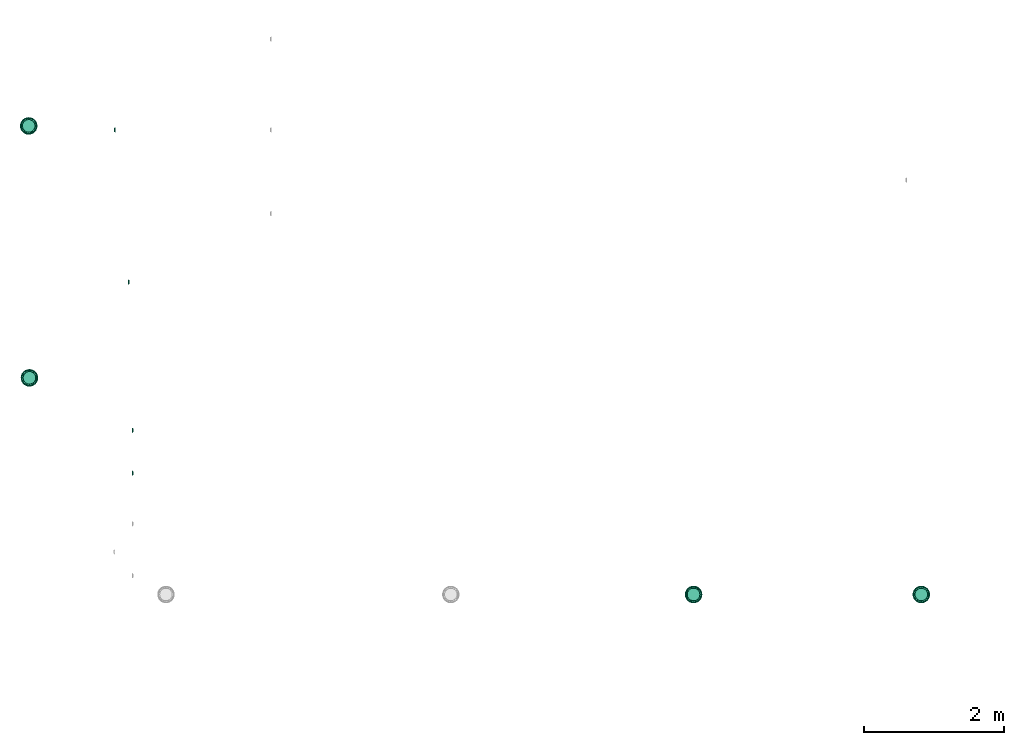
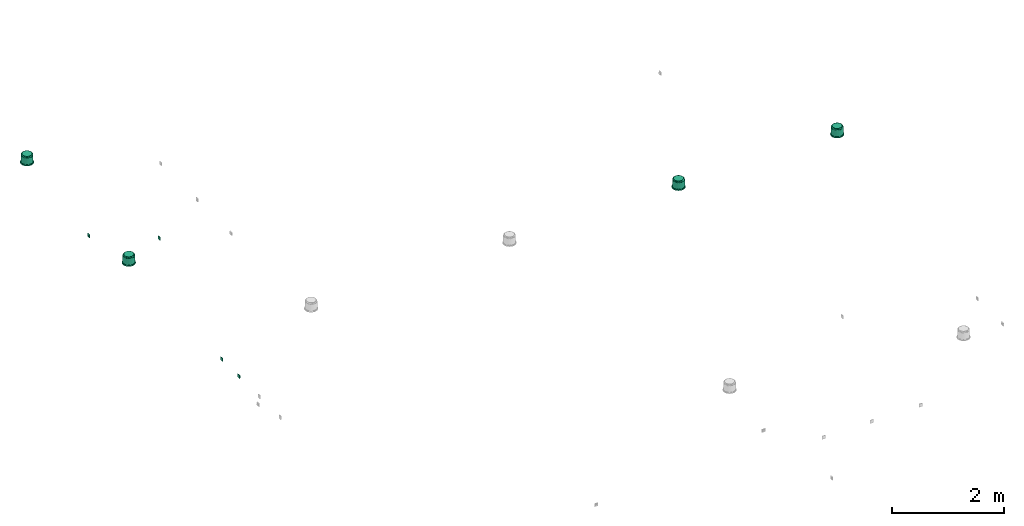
# One storey, part 4 of 5: 8 flow terminals.
"""IFC2X3 building model written with IfcOpenShell, lengths in millimetres."""

from ifc_helpers import new_model, entity, si_unit, converted_unit, derived_unit, direction, frame, origin_with_axes, place, context, subcontext, project, spatial, open_shell, surface_model, source, transform, mapped, type_object, element, save


model = new_model("IFC2X3")

# Units and contexts
model_context = context("Model", 3, precision=0.01, world=frame((0.0, 4.29681676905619e-09, 0.0)), true_north=direction((4.01073788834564e-13, 1.0)))
plan_context = context("Plan", 3, precision=0.01, world=frame((0.0, 4.29681676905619e-09, 0.0)), true_north=direction((4.01073788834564e-13, 1.0)))
body_context = subcontext(model_context, "Body", "Model", "MODEL_VIEW")
ifc_project = project(units=[converted_unit("PLANEANGLEUNIT", "DEGREE", entity("IfcPositiveLengthMeasure", 0.0174532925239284), si_unit("PLANEANGLEUNIT", "RADIAN"), dimensions=[0, 0, 0, 0, 0, 0, 0]), si_unit("AREAUNIT", "SQUARE_METRE"), si_unit("LENGTHUNIT", "METRE", prefix="MILLI"), si_unit("MASSUNIT", "GRAM", prefix="KILO"), si_unit("POWERUNIT", "WATT"), si_unit("PRESSUREUNIT", "PASCAL"), si_unit("FORCEUNIT", "NEWTON", prefix="KILO"), si_unit("ELECTRICVOLTAGEUNIT", "VOLT"), si_unit("ELECTRICCURRENTUNIT", "AMPERE"), si_unit("THERMODYNAMICTEMPERATUREUNIT", "DEGREE_CELSIUS"), si_unit("TIMEUNIT", "SECOND"), si_unit("VOLUMEUNIT", "CUBIC_METRE"), derived_unit("LINEARVELOCITYUNIT", [(si_unit("LENGTHUNIT", "METRE"), 1), (si_unit("TIMEUNIT", "SECOND"), -1)]), derived_unit("VOLUMETRICFLOWRATEUNIT", [(si_unit("VOLUMEUNIT", "CUBIC_METRE"), 1), (si_unit("TIMEUNIT", "SECOND"), -1)]), derived_unit("THERMALTRANSMITTANCEUNIT", [(si_unit("POWERUNIT", "WATT"), 1), (si_unit("THERMODYNAMICTEMPERATUREUNIT", "KELVIN"), -1), (si_unit("AREAUNIT", "SQUARE_METRE"), -1)]), derived_unit("SOUNDPRESSUREUNIT", [(si_unit("PRESSUREUNIT", "PASCAL"), 1)])], contexts=[model_context, plan_context])

# Site, building, storey
site_placement = place(None, frame((0.0, -4.29681676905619e-09, 0.0), z_axis=(0.0, 0.0, 1.0), x_axis=(1.0, 0.0, 0.0)))
site = spatial("IfcSite", under=ifc_project, at=site_placement, Name="ENGM", CompositionType="ELEMENT")
building_placement = place(site_placement, frame((0.0, 4.29681676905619e-09, 0.0), z_axis=(0.0, 0.0, 1.0), x_axis=(1.0, 0.0, 0.0)))
building = spatial("IfcBuilding", under=site, at=building_placement, Name="TS", CompositionType="ELEMENT")
storey_placement = place(building_placement, frame((0.0, 0.0, 210900.0), z_axis=(0.0, 0.0, 1.0), x_axis=(1.0, 0.0, 0.0)))
storey = spatial("IfcBuildingStorey", under=building, at=storey_placement, Name="Nivå F", CompositionType="ELEMENT", Elevation=210900.0)

# Flow terminals
outlet_type = type_object("IfcOutletType", Name="Datauttak dobbel Vegg - IKT", PredefinedType="COMMUNICATIONSOUTLET")
shared_shape_1 = source(origin_with_axes(), body_context, "Body", "SurfaceModel", [
    surface_model("IfcShellBasedSurfaceModel", [(35.5, 5.05547, 35.5832), (25.5, 20.05547, 25.5832), (-35.5, 5.05547, 35.5832), (-25.5, 20.05547, 25.5832), (-35.5, 4.94453, 35.41679), (-25.5, 19.94453, 25.41679), (25.5, 19.94453, 25.41679), (35.5, 4.94453, 35.41679), (35.5, 4.94453, -35.41679), (25.5, 19.94453, -25.41679), (-35.5, 4.94453, -35.41679), (-25.5, 19.94453, -25.41679), (-35.5, 5.05547, -35.5832), (-25.5, 20.05547, -25.5832), (25.5, 20.05547, -25.5832), (35.5, 5.05547, -35.5832), (-25.5832, 20.05547, -25.5), (-35.5832, 5.05547, -35.5), (-35.5832, 5.05547, 35.5), (-25.5832, 20.05547, 25.5), (-25.41679, 19.94453, 25.5), (-35.41679, 4.94453, 35.5), (-25.41679, 19.94453, -25.5), (-35.41679, 4.94453, -35.5), (25.41679, 19.94453, -25.5), (35.41679, 4.94453, -35.5), (35.41679, 4.94453, 35.5), (25.41679, 19.94453, 25.5), (25.5832, 20.05547, 25.5), (35.5832, 5.05547, 35.5), (25.5832, 20.05547, -25.5), (35.5832, 5.05547, -35.5), (35.4, 5.0, -35.5), (35.4, 0.0, -35.5), (35.4, 0.0, 35.5), (35.4, 5.0, 35.5), (35.6, 5.0, 35.5), (35.6, 0.0, 35.5), (35.6, 0.0, -35.5), (35.6, 5.0, -35.5), (-35.5, 0.0, -35.6), (-35.5, 5.0, -35.6), (35.5, 5.0, -35.6), (35.5, 0.0, -35.6), (35.5, 0.0, -35.4), (35.5, 5.0, -35.4), (-35.5, 5.0, -35.4), (-35.5, 0.0, -35.4), (-35.6, 5.0, -35.5), (-35.6, 0.0, -35.5), (-35.6, 0.0, 35.5), (-35.6, 5.0, 35.5), (-35.4, 5.0, 35.5), (-35.4, 0.0, 35.5), (-35.4, 0.0, -35.5), (-35.4, 5.0, -35.5), (-35.5, -0.1, -35.5), (35.5, -0.1, -35.5), (35.5, -0.1, 35.5), (-35.5, -0.1, 35.5), (-35.5, 0.1, 35.5), (35.5, 0.1, 35.5), (35.5, 0.1, -35.5), (-35.5, 0.1, -35.5), (-35.5, 0.0, 35.4), (-35.5, 5.0, 35.4), (35.5, 5.0, 35.4), (35.5, 0.0, 35.4), (35.5, 0.0, 35.6), (35.5, 5.0, 35.6), (-35.5, 5.0, 35.6), (-35.5, 0.0, 35.6), (-25.5, 19.9, -25.5), (25.5, 19.9, -25.5), (25.5, 19.9, 25.5), (-25.5, 19.9, 25.5), (-25.5, 20.1, 25.5), (25.5, 20.1, 25.5), (25.5, 20.1, -25.5), (-25.5, 20.1, -25.5), (-25.5, 22.0, 25.5), (-25.5, 20.0, 25.5), (25.5, 20.0, 25.5), (25.5, 22.0, 25.5), (25.5, 22.0, 20.5), (25.5, 20.0, 20.5), (-25.5, 20.0, 20.5), (-25.5, 22.0, 20.5), (-25.5, 22.0, 10.5), (-25.5, 20.0, 10.5), (25.5, 20.0, 10.5), (25.5, 22.0, 10.5), (25.5, 22.0, -25.5), (25.5, 20.0, -25.5), (-25.5, 20.0, -25.5), (-25.5, 22.0, -25.5), (-17.5, 21.91, -6.5), (-2.5, 21.91, -6.5), (-17.5, 21.91, 8.5), (-2.5, 21.91, 8.5), (-17.5, 22.11, 8.5), (-2.5, 22.11, 8.5), (-17.5, 22.11, -6.5), (-2.5, 22.11, -6.5), (2.5, 21.91, -6.5), (17.5, 21.91, -6.5), (17.5, 21.91, 8.5), (2.5, 21.91, 8.5), (2.5, 22.11, 8.5), (17.5, 22.11, 8.5), (2.5, 22.11, -6.5), (17.5, 22.11, -6.5)], [open_shell([[[0, 1, 2]], [[3, 2, 1]], [[4, 5, 6]], [[6, 7, 4]], [[3, 1, 6]], [[6, 5, 3]], [[2, 3, 4]], [[5, 4, 3]], [[0, 2, 7]], [[4, 7, 2]], [[1, 0, 6]], [[7, 6, 0]], [[8, 9, 10]], [[11, 10, 9]], [[12, 13, 14]], [[14, 15, 12]], [[11, 9, 14]], [[14, 13, 11]], [[10, 11, 12]], [[13, 12, 11]], [[8, 10, 12]], [[12, 15, 8]], [[9, 8, 14]], [[15, 14, 8]], [[16, 17, 18]], [[18, 19, 16]], [[20, 21, 22]], [[23, 22, 21]], [[18, 17, 23]], [[23, 21, 18]], [[19, 18, 20]], [[21, 20, 18]], [[16, 19, 20]], [[20, 22, 16]], [[17, 16, 22]], [[22, 23, 17]], [[24, 25, 26]], [[26, 27, 24]], [[28, 29, 30]], [[31, 30, 29]], [[26, 25, 31]], [[31, 29, 26]], [[27, 26, 28]], [[29, 28, 26]], [[24, 27, 28]], [[28, 30, 24]], [[25, 24, 30]], [[30, 31, 25]], [[32, 33, 34]], [[34, 35, 32]], [[36, 37, 38]], [[38, 39, 36]], [[34, 33, 38]], [[38, 37, 34]], [[35, 34, 37]], [[37, 36, 35]], [[32, 35, 36]], [[36, 39, 32]], [[33, 32, 39]], [[39, 38, 33]], [[40, 41, 42]], [[42, 43, 40]], [[44, 45, 46]], [[46, 47, 44]], [[42, 41, 46]], [[46, 45, 42]], [[43, 42, 45]], [[45, 44, 43]], [[40, 43, 44]], [[44, 47, 40]], [[41, 40, 47]], [[47, 46, 41]], [[48, 49, 50]], [[50, 51, 48]], [[52, 53, 54]], [[54, 55, 52]], [[50, 49, 54]], [[54, 53, 50]], [[51, 50, 53]], [[53, 52, 51]], [[48, 51, 52]], [[52, 55, 48]], [[49, 48, 55]], [[55, 54, 49]], [[56, 57, 58]], [[58, 59, 56]], [[60, 61, 62]], [[62, 63, 60]], [[58, 57, 62]], [[62, 61, 58]], [[59, 58, 61]], [[61, 60, 59]], [[56, 59, 60]], [[60, 63, 56]], [[57, 56, 63]], [[63, 62, 57]], [[64, 65, 66]], [[66, 67, 64]], [[68, 69, 70]], [[70, 71, 68]], [[66, 65, 70]], [[70, 69, 66]], [[67, 66, 69]], [[69, 68, 67]], [[64, 67, 68]], [[68, 71, 64]], [[65, 64, 71]], [[71, 70, 65]], [[72, 73, 74]], [[74, 75, 72]], [[76, 77, 78]], [[78, 79, 76]], [[74, 73, 78]], [[78, 77, 74]], [[75, 74, 77]], [[77, 76, 75]], [[72, 75, 76]], [[76, 79, 72]], [[73, 72, 79]], [[79, 78, 73]], [[80, 81, 82]], [[82, 83, 80]], [[84, 85, 86]], [[86, 87, 84]], [[82, 81, 86]], [[86, 85, 82]], [[83, 82, 85]], [[85, 84, 83]], [[80, 83, 84]], [[84, 87, 80]], [[81, 80, 87]], [[87, 86, 81]], [[88, 89, 90]], [[90, 91, 88]], [[92, 93, 94]], [[94, 95, 92]], [[90, 89, 94]], [[94, 93, 90]], [[91, 90, 93]], [[93, 92, 91]], [[88, 91, 92]], [[92, 95, 88]], [[89, 88, 95]], [[95, 94, 89]], [[96, 97, 98]], [[99, 98, 97]], [[100, 101, 102]], [[103, 102, 101]], [[99, 97, 103]], [[103, 101, 99]], [[98, 99, 101]], [[101, 100, 98]], [[96, 98, 100]], [[100, 102, 96]], [[97, 96, 102]], [[102, 103, 97]], [[104, 105, 106]], [[106, 107, 104]], [[108, 109, 110]], [[111, 110, 109]], [[106, 105, 111]], [[111, 109, 106]], [[107, 106, 109]], [[109, 108, 107]], [[104, 107, 108]], [[108, 110, 104]], [[105, 104, 110]], [[110, 111, 105]]])]),
])
for number, where, z_axis, x_axis, name in (
    (1, (523383.1, 455553.96624, 800.0), (0.0, 0.0, 1.0), (0.0, 1.0, 0.0), "Datauttak dobbel Vegg - IKT"),
    (2, (523561.5, 453373.05246, 2000.0), (0.0, 0.0, 1.0), (0.0, -1.0, 0.0), "Datauttak dobbel Vegg - IKT"),
    (3, (523618.5, 450634.19129, 638.5), (0.0, 0.0, 1.0), (0.0, -1.0, 0.0), "Datauttak dobbel Vegg - IKT"),
    (4, (523618.5, 451247.8947, 638.5), (0.0, 0.0, 1.0), (0.0, -1.0, 0.0), "Datauttak dobbel Vegg - IKT"),
):
    element("IfcFlowTerminal", number, at=place(storey_placement, frame(where, z_axis=z_axis, x_axis=x_axis)), inside=storey, type_object=outlet_type, Name=name, context=body_context, shape_type="MappedRepresentation", body=[
        mapped(shared_shape_1, transform((0.0, 0.0, 0.0), scale=1.0)),
    ])
electric_appliance_type = type_object("IfcElectricApplianceType", Name="Høyttaler innfelt", PredefinedType="NOTDEFINED")
shared_shape_2 = source(origin_with_axes(), body_context, "Body", "SurfaceModel", [
    surface_model("IfcShellBasedSurfaceModel", [(-68.944, 57.85088, 184.0), (-58.59195, 79.97902, 179.50754), (-80.0329, 55.28406, 180.76938), (-78.29994, 75.83774, 166.88554), (-50.40099, 96.24365, 167.73947), (-65.24416, 89.80089, 159.0), (-45.0, 77.94229, 184.0), (104.29833, 0.0, 174.69059), (98.55658, 30.89802, 175.83351), (97.14917, 0.0, 179.3453), (-98.55658, 30.89802, 175.83351), (-104.29833, 0.0, 174.69059), (-97.14917, 0.0, 179.3453), (93.09772, 49.71788, 173.10261), (104.32878, 23.10743, 171.13623), (97.92626, 46.3605, 168.38431), (-15.62834, 88.6327, 184.0), (-30.79138, 92.23996, 180.78615), (-104.32878, 23.10743, 171.13623), (55.89313, 88.54638, 174.18746), (30.93861, 99.42219, 174.89528), (58.59195, 79.97902, 179.50754), (-97.92626, 46.3605, 168.38431), (-93.09772, 49.71788, 173.10261), (-61.47959, 85.0435, 173.90083), (-30.93861, 99.42219, 174.89528), (45.0, 77.94229, 184.0), (68.944, 57.85088, 184.0), (-84.57234, 30.78181, 184.0), (-92.49153, 28.27678, 181.10339), (-89.80089, 65.24416, 159.0), (17.39577, 107.47851, 167.19599), (34.30089, 105.56728, 159.0), (0.0, 111.0, 159.0), (-34.30089, 105.56728, 159.0), (-17.39574, 107.47094, 167.21376), (30.79138, 92.23996, 180.78615), (0.0, 99.14465, 179.50754), (15.62834, 88.6327, 184.0), (-81.90835, 64.40302, 174.81219), (0.05017, 105.30857, 173.41796), (80.0329, 55.28406, 180.76938), (84.57234, 30.78181, 184.0), (90.0, 0.0, 184.0), (92.49153, 28.27678, 181.10339), (50.40099, 96.24365, 167.73947), (89.80089, 65.24416, 159.0), (105.56728, 34.30089, 159.0), (65.24416, 89.80089, 159.0), (-105.56728, 34.30089, 159.0), (78.29994, 75.83774, 166.88554), (105.52114, 29.61929, 165.29825), (90.11049, 46.65977, 177.6147), (-90.11049, 46.65977, 177.6147), (-107.8502, 0.0, 166.3746), (-105.52114, 29.61929, 165.29825), (-90.0, 0.0, 184.0), (81.90835, 64.40302, 174.81219), (-111.0, 0.0, 159.0), (111.0, 0.0, 159.0), (107.8502, 0.0, 166.3746), (68.944, -57.85088, 184.0), (58.59195, -79.97902, 179.50754), (80.0329, -55.28406, 180.76938), (78.29994, -75.83774, 166.88554), (50.40099, -96.24365, 167.73947), (65.24416, -89.80089, 159.0), (45.0, -77.94229, 184.0), (-98.55658, -30.89802, 175.83351), (98.55658, -30.89802, 175.83351), (-93.09772, -49.71788, 173.10261), (-104.32878, -23.10743, 171.13623), (-97.92626, -46.3605, 168.38431), (15.62834, -88.6327, 184.0), (30.79138, -92.23996, 180.78615), (104.32878, -23.10743, 171.13623), (-55.89313, -88.54638, 174.18746), (-30.93861, -99.42219, 174.89528), (-58.59195, -79.97902, 179.50754), (97.92626, -46.3605, 168.38431), (93.09772, -49.71788, 173.10261), (61.47959, -85.0435, 173.90083), (30.93861, -99.42219, 174.89528), (-45.0, -77.94229, 184.0), (-68.944, -57.85088, 184.0), (84.57234, -30.78181, 184.0), (92.49153, -28.27678, 181.10339), (89.80089, -65.24416, 159.0), (-17.39577, -107.47851, 167.19599), (-34.30089, -105.56728, 159.0), (0.0, -111.0, 159.0), (34.30089, -105.56728, 159.0), (17.39574, -107.47094, 167.21376), (81.90835, -64.40302, 174.81219), (-30.79138, -92.23996, 180.78615), (-15.62834, -88.6327, 184.0), (0.0, -99.14465, 179.50754), (-0.05017, -105.30857, 173.41796), (-80.0329, -55.28406, 180.76938), (-84.57234, -30.78181, 184.0), (-92.49153, -28.27678, 181.10339), (-50.40099, -96.24365, 167.73947), (-89.80089, -65.24416, 159.0), (-105.56728, -34.30089, 159.0), (-65.24416, -89.80089, 159.0), (-78.29994, -75.83774, 166.88554), (-90.11049, -46.65977, 177.6147), (-105.52114, -29.61929, 165.29825), (105.56728, -34.30089, 159.0), (90.11049, -46.65977, 177.6147), (105.52114, -29.61929, 165.29825), (-81.90835, -64.40302, 174.81219), (0.0, 0.0, 159.0), (0.0, 0.0, 184.0), (96.12882, -55.5, 159.0), (28.72892, -107.21777, 159.0), (55.5, -96.12882, 159.0), (78.48885, -78.48885, 159.0), (107.21777, -28.72892, 159.0), (-78.48885, -78.48885, 159.0), (-96.12882, 55.5, 159.0), (-55.5, -96.12882, 159.0), (-28.72892, -107.21777, 159.0), (-96.12882, -55.5, 159.0), (-107.21777, -28.72892, 159.0), (107.21777, 28.72892, 159.0), (55.5, 96.12882, 159.0), (96.12882, 55.5, 159.0), (78.48885, 78.48885, 159.0), (28.72892, 107.21777, 159.0), (-28.72892, 107.21777, 159.0), (-107.21777, 28.72892, 159.0), (-78.48885, 78.48885, 159.0), (-55.5, 96.12882, 159.0), (28.72892, 107.21777, 20.0), (-28.72892, 107.21777, 20.0), (0.0, 111.0, 20.0), (96.12882, 55.5, 20.0), (55.5, 96.12882, 20.0), (107.21777, 28.72892, 20.0), (78.48885, 78.48885, 20.0), (-96.12882, 55.5, 20.0), (-78.48885, 78.48885, 20.0), (-55.5, 96.12882, 20.0), (-107.21777, 28.72892, 20.0), (-96.12882, -55.5, 20.0), (-111.0, 0.0, 20.0), (-78.48885, -78.48885, 20.0), (111.0, 0.0, 20.0), (107.21777, -28.72892, 20.0), (96.12882, -55.5, 20.0), (28.72892, -107.21777, 20.0), (55.5, -96.12882, 20.0), (78.48885, -78.48885, 20.0), (-107.21777, -28.72892, 20.0), (-55.5, -96.12882, 20.0), (0.0, -111.0, 20.0), (-28.72892, -107.21777, 20.0), (0.0, -118.0, 20.0), (30.54065, -113.97924, 20.0), (59.0, -102.191, 20.0), (83.4386, -83.4386, 20.0), (102.191, -59.0, 20.0), (113.97924, -30.54065, 20.0), (118.0, 0.0, 20.0), (-30.54065, -113.97924, 20.0), (-83.4386, -83.4386, 20.0), (-59.0, -102.191, 20.0), (-118.0, 0.0, 20.0), (-102.191, -59.0, 20.0), (-113.97924, -30.54065, 20.0), (113.97924, 30.54065, 20.0), (102.191, 59.0, 20.0), (83.4386, 83.4386, 20.0), (59.0, 102.191, 20.0), (30.54065, 113.97924, 20.0), (0.0, 118.0, 20.0), (-30.54065, 113.97924, 20.0), (-102.191, 59.0, 20.0), (-113.97924, 30.54065, 20.0), (-83.4386, 83.4386, 20.0), (-59.0, 102.191, 20.0), (0.0, 118.0, 0.0), (30.54065, 113.97924, 0.0), (59.0, 102.191, 0.0), (-83.4386, 83.4386, 0.0), (83.4386, 83.4386, 0.0), (102.191, 59.0, 0.0), (113.97924, 30.54065, 0.0), (-118.0, 0.0, 0.0), (-113.97924, -30.54065, 0.0), (-30.54065, 113.97924, 0.0), (-59.0, 102.191, 0.0), (-102.191, 59.0, 0.0), (-113.97924, 30.54065, 0.0), (118.0, 0.0, 0.0), (113.97924, -30.54065, 0.0), (102.191, -59.0, 0.0), (83.4386, -83.4386, 0.0), (59.0, -102.191, 0.0), (30.54065, -113.97924, 0.0), (-83.4386, -83.4386, 0.0), (-102.191, -59.0, 0.0), (-30.54065, -113.97924, 0.0), (-59.0, -102.191, 0.0), (0.0, -118.0, 0.0), (-32.35238, 120.74073, 0.0), (-62.5, 108.25318, 0.0), (-88.38835, 88.38835, 0.0), (-108.25318, 62.5, 0.0), (-120.74073, 32.35238, 0.0), (62.5, 108.25318, 0.0), (-125.0, 0.0, 0.0), (0.0, 125.0, 0.0), (32.35238, 120.74073, 0.0), (88.38835, 88.38835, 0.0), (120.74073, 32.35238, 0.0), (108.25318, 62.5, 0.0), (-120.74073, -32.35238, 0.0), (125.0, 0.0, 0.0), (-108.25318, -62.5, 0.0), (-32.35238, -120.74073, 0.0), (-88.38835, -88.38835, 0.0), (-62.5, -108.25318, 0.0), (0.0, -125.0, 0.0), (120.74073, -32.35238, 0.0), (88.38835, -88.38835, 0.0), (108.25318, -62.5, 0.0), (32.35238, -120.74073, 0.0), (62.5, -108.25318, 0.0), (-32.35238, -120.74073, -3.0), (88.38835, -88.38835, -3.0), (0.0, -125.0, -3.0), (-88.38835, -88.38835, -3.0), (-62.5, -108.25318, -3.0), (-108.25318, -62.5, -3.0), (-120.74073, -32.35238, -3.0), (88.38835, 88.38835, -3.0), (32.35238, -120.74073, -3.0), (62.5, -108.25318, -3.0), (120.74073, -32.35238, -3.0), (108.25318, -62.5, -3.0), (125.0, 0.0, -3.0), (-125.0, 0.0, -3.0), (-120.74073, 32.35238, -3.0), (-32.35238, 120.74073, -3.0), (-108.25318, 62.5, -3.0), (-88.38835, 88.38835, -3.0), (-62.5, 108.25318, -3.0), (120.74073, 32.35238, -3.0), (108.25318, 62.5, -3.0), (62.5, 108.25318, -3.0), (0.0, 125.0, -3.0), (32.35238, 120.74073, -3.0), (-84.57234, 30.78181, -6.0), (-102.5, 0.0, -5.0), (-96.31849, 35.05706, -5.0), (-45.0, 77.94229, -6.0), (-78.51955, 65.88573, -5.0), (-51.25, 88.7676, -5.0), (-68.944, 57.85088, -6.0), (-17.79894, 100.94279, -5.0), (-15.62834, 88.6327, -6.0), (-90.0, 0.0, -6.0), (15.62834, 88.6327, -6.0), (45.0, 77.94229, -6.0), (17.79894, 100.94279, -5.0), (51.25, 88.7676, -5.0), (96.31849, 35.05706, -5.0), (102.5, 0.0, -5.0), (90.0, 0.0, -6.0), (78.51955, 65.88573, -5.0), (68.944, 57.85088, -6.0), (84.57234, 30.78181, -6.0), (84.57234, -30.78181, -6.0), (96.31849, -35.05706, -5.0), (45.0, -77.94229, -6.0), (78.51955, -65.88573, -5.0), (51.25, -88.7676, -5.0), (68.944, -57.85088, -6.0), (17.79894, -100.94279, -5.0), (15.62834, -88.6327, -6.0), (-15.62834, -88.6327, -6.0), (-45.0, -77.94229, -6.0), (-17.79894, -100.94279, -5.0), (-51.25, -88.7676, -5.0), (-84.57234, -30.78181, -6.0), (-78.51955, -65.88573, -5.0), (-96.31849, -35.05706, -5.0), (-68.944, -57.85088, -6.0), (0.0, 0.0, -6.0), (106.99386, 34.76441, -3.0), (0.0, 0.0, -3.0), (112.5, 0.0, -3.0), (91.01441, 66.12584, -3.0), (66.12584, 91.01441, -3.0), (34.76441, 106.99386, -3.0), (0.0, 112.5, -3.0), (-91.01441, 66.12584, -3.0), (-106.99386, 34.76441, -3.0), (-66.12584, 91.01441, -3.0), (-34.76441, 106.99386, -3.0), (-112.5, 0.0, -3.0), (66.12584, -91.01441, -3.0), (91.01441, -66.12584, -3.0), (34.76441, -106.99386, -3.0), (106.99386, -34.76441, -3.0), (0.0, -112.5, -3.0), (-66.12584, -91.01441, -3.0), (-34.76441, -106.99386, -3.0), (-91.01441, -66.12584, -3.0), (-106.99386, -34.76441, -3.0)], [open_shell([[[0, 1, 2]], [[3, 4, 5]], [[0, 6, 1]], [[7, 8, 9]], [[10, 11, 12]], [[13, 14, 15]], [[7, 14, 8]], [[6, 16, 17]], [[18, 11, 10]], [[19, 20, 21]], [[22, 23, 3]], [[24, 25, 4]], [[26, 27, 21]], [[28, 2, 29]], [[3, 5, 30]], [[31, 32, 33]], [[33, 34, 35]], [[36, 37, 38]], [[4, 35, 34]], [[1, 24, 39]], [[26, 36, 38]], [[17, 37, 25]], [[20, 31, 40]], [[21, 20, 36]], [[41, 21, 27]], [[41, 27, 42]], [[0, 2, 28]], [[43, 9, 44]], [[20, 19, 45]], [[46, 15, 47]], [[17, 1, 6]], [[31, 20, 45]], [[48, 32, 45]], [[30, 49, 22]], [[34, 5, 4]], [[15, 46, 50]], [[14, 51, 15]], [[48, 50, 46]], [[33, 35, 31]], [[8, 13, 52]], [[2, 39, 53]], [[37, 16, 38]], [[54, 18, 55]], [[28, 29, 56]], [[45, 19, 50]], [[37, 17, 16]], [[1, 17, 25]], [[21, 36, 26]], [[37, 36, 20]], [[1, 39, 2]], [[23, 53, 39]], [[44, 41, 42]], [[57, 21, 41]], [[10, 12, 29]], [[22, 18, 23]], [[13, 8, 14]], [[52, 41, 44]], [[4, 25, 35]], [[25, 37, 40]], [[31, 35, 40]], [[45, 32, 31]], [[22, 3, 30]], [[3, 39, 24]], [[45, 50, 48]], [[50, 57, 13]], [[58, 54, 55]], [[23, 18, 10]], [[59, 47, 51]], [[56, 29, 12]], [[43, 44, 42]], [[8, 44, 9]], [[25, 40, 35]], [[20, 40, 37]], [[25, 24, 1]], [[3, 24, 4]], [[21, 57, 19]], [[50, 19, 57]], [[53, 23, 10]], [[3, 23, 39]], [[10, 29, 53]], [[2, 53, 29]], [[50, 13, 15]], [[52, 13, 57]], [[41, 52, 57]], [[44, 8, 52]], [[55, 18, 22]], [[54, 11, 18]], [[22, 49, 55]], [[55, 49, 58]], [[7, 60, 14]], [[60, 59, 51]], [[60, 51, 14]], [[47, 15, 51]], [[61, 62, 63]], [[64, 65, 66]], [[61, 67, 62]], [[11, 68, 12]], [[69, 7, 9]], [[70, 71, 72]], [[11, 71, 68]], [[67, 73, 74]], [[75, 7, 69]], [[76, 77, 78]], [[79, 80, 64]], [[81, 82, 65]], [[83, 84, 78]], [[85, 63, 86]], [[64, 66, 87]], [[88, 89, 90]], [[90, 91, 92]], [[91, 66, 65]], [[65, 92, 91]], [[62, 81, 93]], [[83, 94, 95]], [[74, 96, 82]], [[77, 88, 97]], [[78, 77, 94]], [[98, 78, 84]], [[98, 84, 99]], [[61, 63, 85]], [[56, 12, 100]], [[77, 76, 101]], [[102, 72, 103]], [[104, 105, 102]], [[88, 77, 101]], [[104, 89, 101]], [[68, 70, 106]], [[74, 62, 67]], [[72, 102, 105]], [[71, 107, 72]], [[87, 108, 79]], [[90, 92, 88]], [[94, 96, 95]], [[63, 93, 109]], [[96, 73, 95]], [[60, 75, 110]], [[85, 86, 43]], [[101, 76, 105]], [[96, 74, 73]], [[62, 74, 82]], [[78, 94, 83]], [[96, 94, 77]], [[62, 93, 63]], [[80, 109, 93]], [[100, 98, 99]], [[111, 78, 98]], [[69, 9, 86]], [[79, 75, 80]], [[70, 68, 71]], [[106, 98, 100]], [[65, 82, 92]], [[82, 96, 97]], [[88, 92, 97]], [[101, 89, 88]], [[79, 64, 87]], [[64, 93, 81]], [[101, 105, 104]], [[105, 111, 70]], [[59, 60, 110]], [[80, 75, 69]], [[58, 103, 107]], [[43, 86, 9]], [[56, 100, 99]], [[68, 100, 12]], [[82, 97, 92]], [[77, 97, 96]], [[82, 81, 62]], [[64, 81, 65]], [[78, 111, 76]], [[105, 76, 111]], [[109, 80, 69]], [[64, 80, 93]], [[69, 86, 109]], [[63, 109, 86]], [[105, 70, 72]], [[106, 70, 111]], [[98, 106, 111]], [[100, 68, 106]], [[110, 75, 79]], [[60, 7, 75]], [[79, 108, 110]], [[110, 108, 59]], [[11, 54, 71]], [[54, 58, 107]], [[54, 107, 71]], [[103, 72, 107]], [[59, 112, 47]], [[47, 112, 46]], [[112, 48, 46]], [[48, 112, 32]], [[112, 33, 32]], [[112, 49, 30]], [[30, 5, 112]], [[34, 33, 112]], [[112, 5, 34]], [[112, 58, 49]], [[112, 87, 66]], [[112, 66, 91]], [[112, 108, 87]], [[59, 108, 112]], [[91, 90, 112]], [[112, 89, 104]], [[112, 104, 102]], [[112, 103, 58]], [[103, 112, 102]], [[89, 112, 90]], [[27, 113, 42]], [[26, 113, 27]], [[113, 26, 38]], [[113, 43, 42]], [[28, 56, 113]], [[0, 28, 113]], [[16, 6, 113]], [[0, 113, 6]], [[38, 16, 113]], [[67, 61, 113]], [[61, 85, 113]], [[113, 85, 43]], [[73, 67, 113]], [[83, 95, 113]], [[84, 83, 113]], [[56, 99, 113]], [[84, 113, 99]], [[73, 113, 95]], [[114, 115, 116]], [[114, 116, 117]], [[114, 118, 59]], [[114, 59, 115]], [[119, 115, 120]], [[90, 121, 122]], [[90, 115, 121]], [[123, 58, 124]], [[121, 115, 119]], [[123, 119, 58]], [[125, 115, 59]], [[126, 125, 127]], [[126, 127, 128]], [[125, 129, 120]], [[129, 125, 126]], [[130, 129, 33]], [[119, 131, 58]], [[120, 131, 119]], [[132, 130, 133]], [[130, 132, 120]], [[129, 130, 120]], [[120, 115, 125]], [[134, 135, 136]], [[137, 134, 138]], [[137, 139, 134]], [[137, 138, 140]], [[141, 134, 139]], [[135, 142, 143]], [[142, 135, 141]], [[144, 145, 146]], [[141, 135, 134]], [[144, 141, 145]], [[141, 139, 147]], [[148, 149, 150]], [[150, 151, 139]], [[152, 151, 150]], [[152, 150, 153]], [[139, 151, 147]], [[146, 145, 154]], [[147, 145, 141]], [[155, 156, 157]], [[155, 147, 151]], [[156, 155, 151]], [[139, 148, 150]], [[124, 154, 145]], [[147, 123, 145]], [[121, 155, 157]], [[147, 155, 119]], [[122, 157, 156]], [[154, 58, 146]], [[154, 124, 58]], [[145, 123, 124]], [[147, 119, 123]], [[121, 119, 155]], [[157, 122, 121]], [[156, 90, 122]], [[115, 151, 152]], [[153, 116, 152]], [[114, 150, 149]], [[153, 150, 117]], [[118, 149, 148]], [[151, 115, 90]], [[152, 116, 115]], [[153, 117, 116]], [[150, 114, 117]], [[118, 114, 149]], [[148, 59, 118]], [[151, 90, 156]], [[125, 148, 139]], [[127, 139, 137]], [[126, 138, 134]], [[129, 134, 136]], [[139, 127, 125]], [[125, 59, 148]], [[140, 128, 127]], [[140, 138, 128]], [[128, 138, 126]], [[134, 129, 126]], [[140, 127, 137]], [[136, 33, 129]], [[130, 135, 143]], [[142, 133, 143]], [[120, 141, 144]], [[142, 141, 132]], [[131, 144, 146]], [[135, 130, 33]], [[143, 133, 130]], [[142, 132, 133]], [[141, 120, 132]], [[131, 120, 144]], [[146, 58, 131]], [[135, 33, 136]], [[158, 159, 160]], [[161, 158, 160]], [[162, 163, 164]], [[158, 161, 162]], [[158, 162, 164]], [[165, 166, 167]], [[166, 165, 158]], [[164, 166, 158]], [[166, 168, 169]], [[169, 168, 170]], [[168, 166, 164]], [[171, 172, 173]], [[168, 171, 173]], [[174, 175, 176]], [[168, 173, 174]], [[177, 174, 176]], [[168, 178, 179]], [[178, 168, 177]], [[180, 177, 181]], [[177, 180, 178]], [[168, 174, 177]], [[171, 168, 164]], [[182, 183, 184]], [[185, 182, 184]], [[186, 187, 188]], [[189, 184, 186]], [[190, 189, 186]], [[191, 185, 192]], [[191, 182, 185]], [[193, 189, 194]], [[185, 184, 193]], [[184, 189, 193]], [[186, 188, 190]], [[195, 196, 197]], [[197, 198, 188]], [[190, 198, 199]], [[198, 190, 188]], [[200, 190, 199]], [[200, 201, 202]], [[202, 190, 200]], [[201, 203, 204]], [[203, 201, 205]], [[205, 201, 200]], [[188, 195, 197]], [[190, 170, 189]], [[202, 169, 190]], [[167, 201, 204]], [[202, 201, 166]], [[165, 204, 203]], [[190, 169, 170]], [[170, 168, 189]], [[165, 167, 204]], [[166, 201, 167]], [[166, 169, 202]], [[158, 165, 203]], [[203, 205, 158]], [[200, 159, 205]], [[199, 160, 200]], [[162, 198, 197]], [[199, 198, 161]], [[163, 197, 196]], [[199, 161, 160]], [[160, 159, 200]], [[164, 163, 196]], [[162, 197, 163]], [[162, 161, 198]], [[195, 164, 196]], [[205, 159, 158]], [[188, 171, 195]], [[187, 172, 188]], [[174, 186, 184]], [[187, 186, 173]], [[175, 184, 183]], [[188, 172, 171]], [[171, 164, 195]], [[175, 174, 184]], [[173, 186, 174]], [[173, 172, 187]], [[176, 175, 183]], [[183, 182, 176]], [[191, 177, 182]], [[192, 181, 191]], [[179, 194, 189]], [[185, 180, 192]], [[192, 180, 181]], [[181, 177, 191]], [[193, 178, 180]], [[193, 194, 178]], [[178, 194, 179]], [[189, 168, 179]], [[193, 180, 185]], [[182, 177, 176]], [[206, 207, 208]], [[206, 208, 209]], [[206, 210, 211]], [[210, 206, 209]], [[211, 210, 212]], [[213, 211, 214]], [[213, 206, 211]], [[215, 216, 217]], [[218, 215, 211]], [[219, 216, 215]], [[218, 211, 212]], [[220, 219, 218]], [[221, 220, 222]], [[220, 221, 219]], [[221, 222, 223]], [[224, 219, 221]], [[225, 226, 227]], [[226, 225, 219]], [[226, 228, 229]], [[228, 226, 219]], [[219, 224, 228]], [[218, 219, 215]], [[230, 231, 232]], [[233, 230, 234]], [[235, 236, 230]], [[235, 230, 233]], [[230, 237, 231]], [[238, 231, 239]], [[238, 232, 231]], [[231, 240, 241]], [[240, 231, 242]], [[231, 237, 242]], [[230, 236, 243]], [[244, 237, 243]], [[245, 244, 246]], [[247, 248, 245]], [[247, 245, 246]], [[237, 244, 245]], [[249, 237, 250]], [[242, 237, 249]], [[251, 252, 253]], [[252, 251, 237]], [[245, 252, 237]], [[237, 230, 243]], [[249, 216, 242]], [[250, 217, 249]], [[211, 237, 251]], [[250, 237, 215]], [[214, 251, 253]], [[249, 217, 216]], [[216, 219, 242]], [[214, 211, 251]], [[215, 237, 211]], [[215, 217, 250]], [[213, 214, 253]], [[253, 252, 213]], [[245, 206, 252]], [[248, 207, 245]], [[209, 247, 246]], [[248, 247, 208]], [[210, 246, 244]], [[248, 208, 207]], [[207, 206, 245]], [[212, 210, 244]], [[209, 246, 210]], [[209, 208, 247]], [[243, 212, 244]], [[252, 206, 213]], [[236, 218, 243]], [[235, 220, 236]], [[223, 233, 234]], [[235, 233, 222]], [[221, 234, 230]], [[236, 220, 218]], [[218, 212, 243]], [[221, 223, 234]], [[222, 233, 223]], [[222, 220, 235]], [[224, 221, 230]], [[230, 232, 224]], [[228, 232, 238]], [[239, 229, 238]], [[227, 241, 240]], [[225, 240, 242]], [[239, 226, 229]], [[229, 228, 238]], [[231, 227, 226]], [[231, 241, 227]], [[227, 240, 225]], [[242, 219, 225]], [[231, 226, 239]], [[232, 228, 224]], [[254, 255, 256]], [[257, 258, 259]], [[256, 258, 260]], [[259, 261, 262]], [[263, 255, 254]], [[258, 257, 260]], [[260, 254, 256]], [[257, 259, 262]], [[261, 264, 262]], [[265, 266, 267]], [[268, 269, 270]], [[267, 271, 272]], [[268, 272, 271]], [[264, 266, 265]], [[265, 267, 272]], [[270, 273, 268]], [[268, 273, 272]], [[266, 264, 261]], [[274, 269, 275]], [[276, 277, 278]], [[275, 277, 279]], [[278, 280, 281]], [[270, 269, 274]], [[277, 276, 279]], [[279, 274, 275]], [[276, 278, 281]], [[280, 282, 281]], [[283, 284, 285]], [[286, 287, 288]], [[285, 287, 289]], [[288, 255, 263]], [[282, 284, 283]], [[287, 286, 289]], [[289, 283, 285]], [[286, 288, 263]], [[284, 282, 280]], [[273, 290, 272]], [[272, 290, 265]], [[264, 265, 290]], [[273, 270, 290]], [[290, 263, 254]], [[290, 254, 260]], [[290, 257, 262]], [[257, 290, 260]], [[290, 262, 264]], [[290, 279, 276]], [[290, 274, 279]], [[270, 274, 290]], [[290, 276, 281]], [[290, 282, 283]], [[290, 283, 289]], [[290, 286, 263]], [[286, 290, 289]], [[282, 290, 281]], [[291, 292, 293]], [[294, 292, 291]], [[294, 295, 292]], [[296, 292, 295]], [[296, 297, 292]], [[298, 299, 292]], [[292, 300, 298]], [[292, 297, 301]], [[301, 300, 292]], [[299, 302, 292]], [[303, 304, 292]], [[305, 303, 292]], [[304, 306, 292]], [[292, 306, 293]], [[292, 307, 305]], [[308, 309, 292]], [[310, 308, 292]], [[302, 311, 292]], [[310, 292, 311]], [[307, 292, 309]], [[255, 302, 299]], [[258, 298, 300]], [[299, 298, 256]], [[300, 301, 259]], [[255, 299, 256]], [[300, 259, 258]], [[258, 256, 298]], [[259, 301, 261]], [[301, 297, 261]], [[266, 297, 296]], [[291, 293, 269]], [[267, 296, 295]], [[295, 271, 267]], [[267, 266, 296]], [[291, 268, 294]], [[268, 291, 269]], [[294, 268, 271]], [[294, 271, 295]], [[297, 266, 261]], [[269, 293, 306]], [[277, 304, 303]], [[306, 304, 275]], [[303, 305, 278]], [[269, 306, 275]], [[303, 278, 277]], [[277, 275, 304]], [[278, 305, 280]], [[305, 307, 280]], [[284, 307, 309]], [[287, 308, 310]], [[309, 308, 285]], [[310, 311, 288]], [[308, 287, 285]], [[285, 284, 309]], [[311, 255, 288]], [[288, 287, 310]], [[311, 302, 255]], [[307, 284, 280]]])]),
])
for number, where, z_axis, x_axis in (
    (5, (531666.82025, 448896.12843, 3000.0), (0.0, 0.0, 1.0), (1.0, 0.0, 0.0)),
    (6, (534930.5, 448896.12843, 3000.0), (0.0, 0.0, 1.0), (1.0, 0.0, 0.0)),
    (7, (522149.15058, 452000.94337, 2800.0), (0.0, 0.0, 1.0), (1.0, 0.0, 0.0)),
    (8, (522139.15058, 455610.94337, 2800.0), (0.0, 0.0, 1.0), (1.0, 0.0, 0.0)),
):
    element("IfcFlowTerminal", number, at=place(storey_placement, frame(where, z_axis=z_axis, x_axis=x_axis)), inside=storey, type_object=electric_appliance_type, Name="Høyttaler innfelt", context=body_context, shape_type="MappedRepresentation", body=[
        mapped(shared_shape_2, transform((0.0, 0.0, 0.0), scale=1.0)),
    ])

save(model, "model.ifc")
